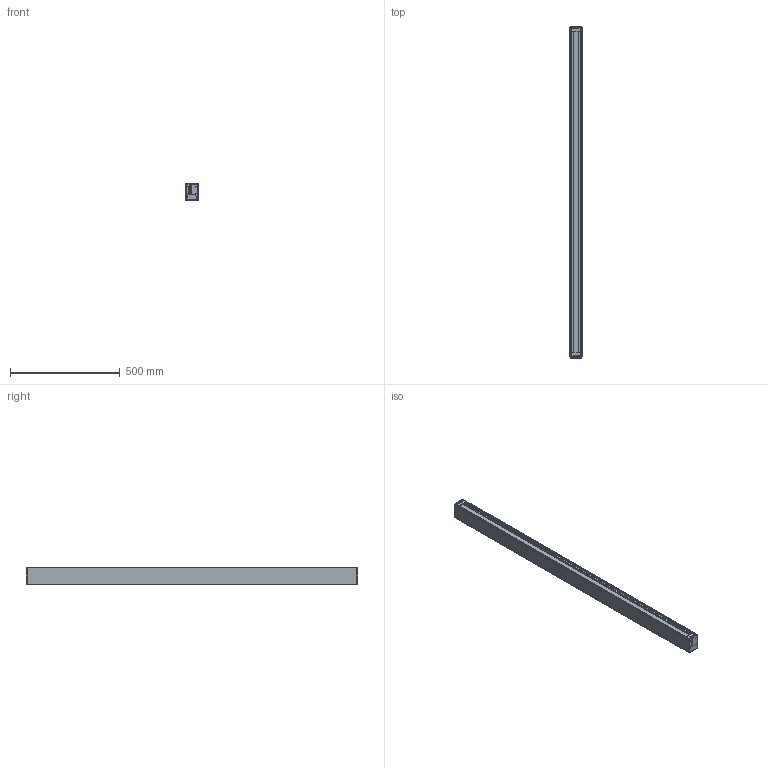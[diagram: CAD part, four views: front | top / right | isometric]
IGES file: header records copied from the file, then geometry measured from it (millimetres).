
Global section: file name: C:\Users\info\Desktop\CRIS\05. NEW PRODUCT\LUMINARIA KISS\3D para web\KISS L150 - IGS.igs; native system: Rhinoceros ( Feb 27 2019 ); preprocessor: Trout Lake IGES 012 Feb 27 2019; date: 260427.135951; units: millimetre
Bounding box: 55 x 1513.48 x 75 mm (x, y, z)
Surface area: 1287546.3 mm2 (no closed solid volume)
Topology: 0 solids, 0 shells, 2006 faces, 17994 edges, 17988 vertices
Faces by surface type: bspline 2006
